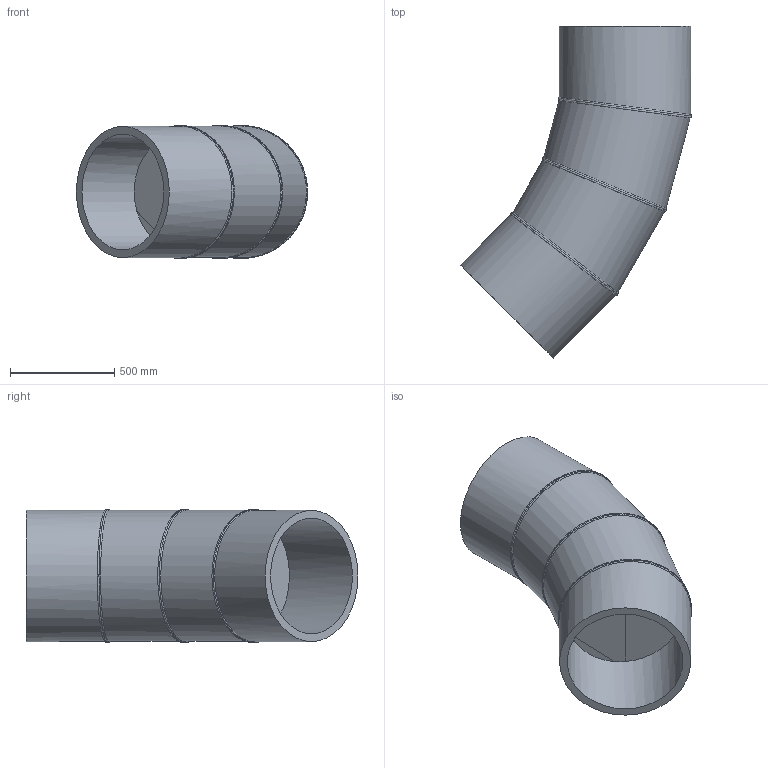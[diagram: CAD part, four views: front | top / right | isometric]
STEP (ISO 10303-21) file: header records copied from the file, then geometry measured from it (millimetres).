
FILE_DESCRIPTION(/* description */ ('Unknown'),/* implementation_level */ '2;1');
FILE_NAME(/* name */ 'Curva 45° a settore DE630 SDR17',/* time_stamp */ '2022-07-26T09:49:06+02:00',/* author */ ('Unknown'),/* organization */ ('Unknown'),/* preprocessor_version */ 'ST-DEVELOPER v18.102',/* originating_system */ 'Solid Edge',/* authorisation */ 'Unknown');
FILE_SCHEMA (('AUTOMOTIVE_DESIGN {1 0 10303 214 3 1 1}'));
Length unit declared in the file: millimetre
Products named in the file (3): Curva 45° a settore DE630 SDR17; Tubo x Gomito 45° DE630 SDR17 - 1; Tubo x Gomito 45° DE630 SDR17 - 2
Assembly tree (4 placements, depth 2):
  Curva 45° a settore DE630 SDR17
    Tubo x Gomito 45° DE630 SDR17 - 1  x2
    Tubo x Gomito 45° DE630 SDR17 - 2  x2
Bounding box: 1109.12 x 1592.55 x 637.99 mm (x, y, z)
Volume: 108142961.6 mm3; surface area: 6383221.7 mm2
Topology: 4 solids, 4 shells, 34 faces, 74 edges, 48 vertices
Faces by surface type: cylinder 20, plane 8, bspline 6
Full cylindrical faces by diameter (mm): 555.2 x4, 630 x4
Entity records: 3422 total; most frequent: CARTESIAN_POINT 3020, DIRECTION 72, ORIENTED_EDGE 52, AXIS2_PLACEMENT_3D 36, EDGE_LOOP 28, FACE_BOUND 28, EDGE_CURVE 26, VERTEX_POINT 20
